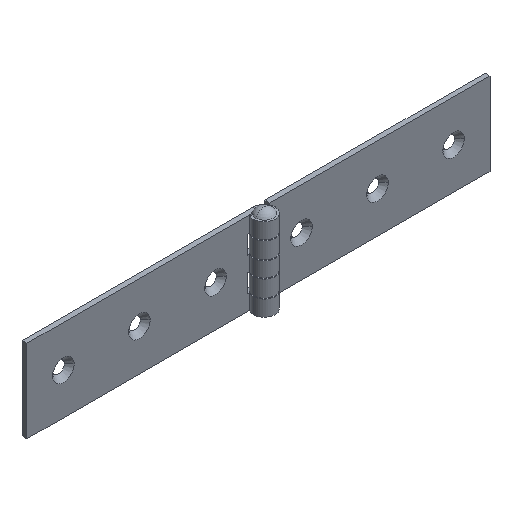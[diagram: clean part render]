
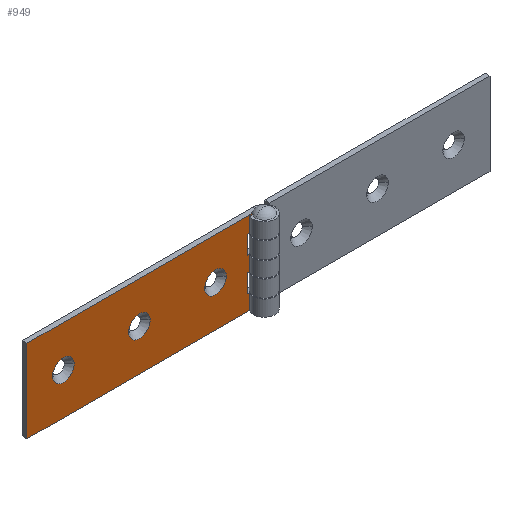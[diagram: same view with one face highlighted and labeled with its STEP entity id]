
A CAD part, isometric view. The second image highlights one B-rep face of the part: STEP entity #949.
In plain terms, the highlighted planar face has unit normal (0, -1, 0).
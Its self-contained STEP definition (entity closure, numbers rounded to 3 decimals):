
#140=CARTESIAN_POINT('',(29.693,0.935,4.75));
#141=VERTEX_POINT('',#140);
#149=CARTESIAN_POINT('',(29.693,0.935,0.));
#150=VERTEX_POINT('',#149);
#151=CARTESIAN_POINT('',(29.693,0.935,0.));
#152=DIRECTION('',(0.0,0.0,1.0));
#153=VECTOR('',#152,4.75);
#154=LINE('',#151,#153);
#155=EDGE_CURVE('',#150,#141,#154,.T.);
#214=CARTESIAN_POINT('',(-26.057,0.935,12.5));
#215=VERTEX_POINT('',#214);
#224=CARTESIAN_POINT('',(-32.557,0.935,12.5));
#225=VERTEX_POINT('',#224);
#226=CARTESIAN_POINT('',(-29.307,0.935,12.5));
#227=DIRECTION('',(0.0,1.0,0.0));
#228=DIRECTION('',(1.0,0.0,0.0));
#229=AXIS2_PLACEMENT_3D('',#226,#227,#228);
#230=CIRCLE('',#229,3.25);
#231=EDGE_CURVE('',#225,#215,#230,.T.);
#256=CARTESIAN_POINT('',(-3.057,0.935,12.5));
#257=VERTEX_POINT('',#256);
#266=CARTESIAN_POINT('',(-9.557,0.935,12.5));
#267=VERTEX_POINT('',#266);
#268=CARTESIAN_POINT('',(-6.307,0.935,12.5));
#269=DIRECTION('',(0.0,1.0,0.0));
#270=DIRECTION('',(1.0,0.0,0.0));
#271=AXIS2_PLACEMENT_3D('',#268,#269,#270);
#272=CIRCLE('',#271,3.25);
#273=EDGE_CURVE('',#267,#257,#272,.T.);
#298=CARTESIAN_POINT('',(19.943,0.935,12.5));
#299=VERTEX_POINT('',#298);
#308=CARTESIAN_POINT('',(13.443,0.935,12.5));
#309=VERTEX_POINT('',#308);
#310=CARTESIAN_POINT('',(16.693,0.935,12.5));
#311=DIRECTION('',(0.0,1.0,0.0));
#312=DIRECTION('',(1.0,0.0,0.0));
#313=AXIS2_PLACEMENT_3D('',#310,#311,#312);
#314=CIRCLE('',#313,3.25);
#315=EDGE_CURVE('',#309,#299,#314,.T.);
#350=CARTESIAN_POINT('',(29.693,0.935,25.));
#351=VERTEX_POINT('',#350);
#359=CARTESIAN_POINT('',(29.693,0.935,20.25));
#360=VERTEX_POINT('',#359);
#361=CARTESIAN_POINT('',(29.693,0.935,20.25));
#362=DIRECTION('',(0.0,0.0,1.0));
#363=VECTOR('',#362,4.75);
#364=LINE('',#361,#363);
#365=EDGE_CURVE('',#360,#351,#364,.T.);
#509=CARTESIAN_POINT('',(29.693,0.935,14.75));
#510=VERTEX_POINT('',#509);
#518=CARTESIAN_POINT('',(29.693,0.935,10.25));
#519=VERTEX_POINT('',#518);
#520=CARTESIAN_POINT('',(29.693,0.935,10.25));
#521=DIRECTION('',(0.0,0.0,1.0));
#522=VECTOR('',#521,4.5);
#523=LINE('',#520,#522);
#524=EDGE_CURVE('',#519,#510,#523,.T.);
#733=CARTESIAN_POINT('',(26.243,0.935,4.75));
#734=VERTEX_POINT('',#733);
#735=CARTESIAN_POINT('',(26.243,0.935,10.25));
#736=VERTEX_POINT('',#735);
#737=CARTESIAN_POINT('',(26.243,0.935,4.75));
#738=DIRECTION('',(0.0,0.0,1.0));
#739=VECTOR('',#738,5.5);
#740=LINE('',#737,#739);
#741=EDGE_CURVE('',#734,#736,#740,.T.);
#773=CARTESIAN_POINT('',(26.243,0.935,10.25));
#774=DIRECTION('',(1.0,0.0,0.0));
#775=VECTOR('',#774,3.45);
#776=LINE('',#773,#775);
#777=EDGE_CURVE('',#736,#519,#776,.T.);
#820=CARTESIAN_POINT('',(29.693,0.935,4.75));
#821=DIRECTION('',(-1.0,0.0,0.0));
#822=VECTOR('',#821,3.45);
#823=LINE('',#820,#822);
#824=EDGE_CURVE('',#141,#734,#823,.T.);
#862=CARTESIAN_POINT('',(29.693,0.935,0.));
#863=DIRECTION('',(0.0,-1.0,0.0));
#864=DIRECTION('',(0.0,0.0,1.0));
#865=AXIS2_PLACEMENT_3D('',#862,#863,#864);
#866=PLANE('',#865);
#867=ORIENTED_EDGE('',*,*,#824,.T.);
#868=ORIENTED_EDGE('',*,*,#741,.T.);
#869=ORIENTED_EDGE('',*,*,#777,.T.);
#870=ORIENTED_EDGE('',*,*,#524,.T.);
#871=CARTESIAN_POINT('',(26.243,0.935,14.75));
#872=VERTEX_POINT('',#871);
#873=CARTESIAN_POINT('',(29.693,0.935,14.75));
#874=DIRECTION('',(-1.0,0.0,0.0));
#875=VECTOR('',#874,3.45);
#876=LINE('',#873,#875);
#877=EDGE_CURVE('',#510,#872,#876,.T.);
#878=ORIENTED_EDGE('',*,*,#877,.T.);
#879=CARTESIAN_POINT('',(26.243,0.935,20.25));
#880=VERTEX_POINT('',#879);
#881=CARTESIAN_POINT('',(26.243,0.935,14.75));
#882=DIRECTION('',(0.0,0.0,1.0));
#883=VECTOR('',#882,5.5);
#884=LINE('',#881,#883);
#885=EDGE_CURVE('',#872,#880,#884,.T.);
#886=ORIENTED_EDGE('',*,*,#885,.T.);
#887=CARTESIAN_POINT('',(26.243,0.935,20.25));
#888=DIRECTION('',(1.0,0.0,0.0));
#889=VECTOR('',#888,3.45);
#890=LINE('',#887,#889);
#891=EDGE_CURVE('',#880,#360,#890,.T.);
#892=ORIENTED_EDGE('',*,*,#891,.T.);
#893=ORIENTED_EDGE('',*,*,#365,.T.);
#894=CARTESIAN_POINT('',(-40.307,0.935,25.));
#895=VERTEX_POINT('',#894);
#896=CARTESIAN_POINT('',(29.693,0.935,25.));
#897=DIRECTION('',(-1.0,0.0,0.0));
#898=VECTOR('',#897,70.0);
#899=LINE('',#896,#898);
#900=EDGE_CURVE('',#351,#895,#899,.T.);
#901=ORIENTED_EDGE('',*,*,#900,.T.);
#902=CARTESIAN_POINT('',(-40.307,0.935,0.));
#903=VERTEX_POINT('',#902);
#904=CARTESIAN_POINT('',(-40.307,0.935,0.));
#905=DIRECTION('',(0.0,0.0,1.0));
#906=VECTOR('',#905,25.0);
#907=LINE('',#904,#906);
#908=EDGE_CURVE('',#903,#895,#907,.T.);
#909=ORIENTED_EDGE('',*,*,#908,.F.);
#910=CARTESIAN_POINT('',(29.693,0.935,0.));
#911=DIRECTION('',(-1.0,0.0,0.0));
#912=VECTOR('',#911,70.0);
#913=LINE('',#910,#912);
#914=EDGE_CURVE('',#150,#903,#913,.T.);
#915=ORIENTED_EDGE('',*,*,#914,.F.);
#916=ORIENTED_EDGE('',*,*,#155,.T.);
#917=EDGE_LOOP('',(#867,#868,#869,#870,#878,#886,#892,#893,#901,#909,#915,#916));
#918=FACE_OUTER_BOUND('',#917,.T.);
#919=CARTESIAN_POINT('',(16.693,0.935,12.5));
#920=DIRECTION('',(0.0,1.0,0.0));
#921=DIRECTION('',(1.0,0.0,0.0));
#922=AXIS2_PLACEMENT_3D('',#919,#920,#921);
#923=CIRCLE('',#922,3.25);
#924=EDGE_CURVE('',#299,#309,#923,.T.);
#925=ORIENTED_EDGE('',*,*,#924,.T.);
#926=ORIENTED_EDGE('',*,*,#315,.T.);
#927=EDGE_LOOP('',(#925,#926));
#928=FACE_BOUND('',#927,.T.);
#929=CARTESIAN_POINT('',(-6.307,0.935,12.5));
#930=DIRECTION('',(0.0,1.0,0.0));
#931=DIRECTION('',(1.0,0.0,0.0));
#932=AXIS2_PLACEMENT_3D('',#929,#930,#931);
#933=CIRCLE('',#932,3.25);
#934=EDGE_CURVE('',#257,#267,#933,.T.);
#935=ORIENTED_EDGE('',*,*,#934,.T.);
#936=ORIENTED_EDGE('',*,*,#273,.T.);
#937=EDGE_LOOP('',(#935,#936));
#938=FACE_BOUND('',#937,.T.);
#939=CARTESIAN_POINT('',(-29.307,0.935,12.5));
#940=DIRECTION('',(0.0,1.0,0.0));
#941=DIRECTION('',(1.0,0.0,0.0));
#942=AXIS2_PLACEMENT_3D('',#939,#940,#941);
#943=CIRCLE('',#942,3.25);
#944=EDGE_CURVE('',#215,#225,#943,.T.);
#945=ORIENTED_EDGE('',*,*,#944,.T.);
#946=ORIENTED_EDGE('',*,*,#231,.T.);
#947=EDGE_LOOP('',(#945,#946));
#948=FACE_BOUND('',#947,.T.);
#949=ADVANCED_FACE('',(#918,#928,#938,#948),#866,.T.);
